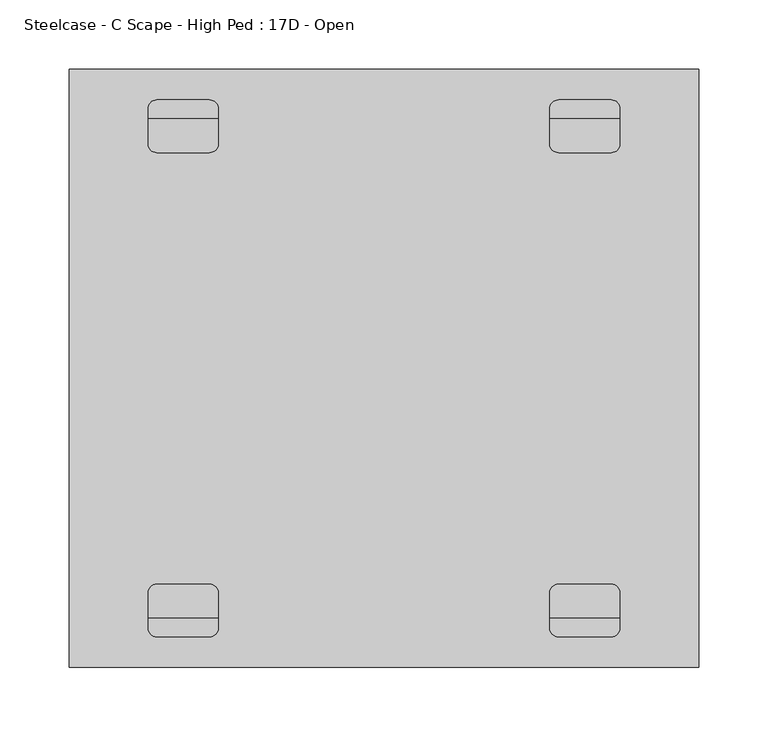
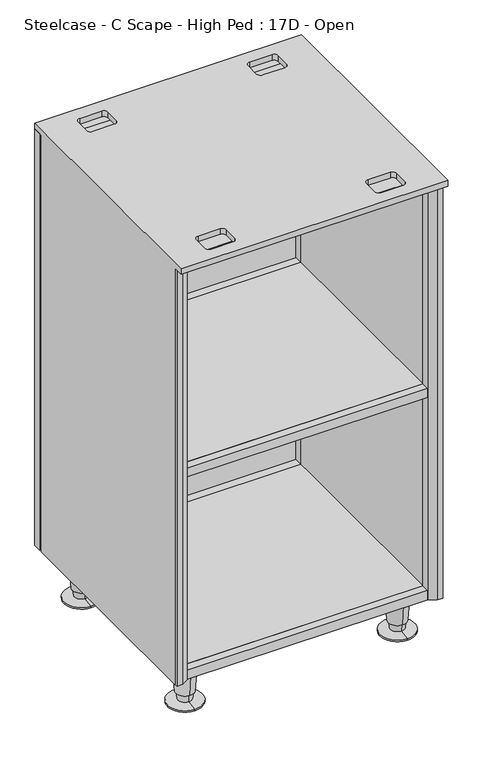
"""IFC4 building model written with IfcOpenShell, lengths in millimetres: furniture geometry, Steelcase - C Scape - High Ped : 17D - Open."""

from ifc_helpers import new_model, si_unit, frame, origin, place, context, project, spatial, polyline, circle_curve, outline, extrude, faceted_brep, source, transform, mapped, element, save
from ifc_brep_helpers import plane_surface, cylinder_surface, revolved_surface, advanced_brep


def steelcase_c_scape_high_ped_17d_open_59ce3d5d(model_context):
    return source(origin(), model_context, "Body", "SolidModel", [
        extrude(outline(polyline([(455.295, 0.0), (455.295, -13.8429225), (445.1174429, -13.8429225), (433.069569, -21.0820155), (21.5898062, -21.0820155), (9.5419322, -13.8429225), (-0.635, -13.8429225), (-0.635, 0.0), (455.295, 0.0)])), frame((0.0, 0.0, 76.2), z_axis=(0.0, 0.0, 1.0), x_axis=(1.0, 0.0, 0.0)), (0.0, 0.0, 1.0), 751.84),
        extrude(outline(polyline([(11.5822775, -415.036), (11.5822775, -397.2560233), (21.5898062, -397.2560233), (21.5898062, -412.2419845), (9.5419322, -419.4810775), (0.3980765, -419.4810775), (0.3980765, -415.036), (11.5822775, -415.036)])), frame((0.0, 0.0, 76.2), z_axis=(0.0, 0.0, 1.0), x_axis=(1.0, 0.0, 0.0)), (0.0, 0.0, 1.0), 751.84),
        extrude(outline(polyline([(443.0776, -415.036), (454.2616522, -415.036), (454.2616522, -419.4810775), (445.1174429, -419.4810775), (433.07, -412.2422435), (433.07, -397.2560233), (443.0776, -397.2560233), (443.0776, -415.036)])), frame((0.0, 0.0, 76.2), z_axis=(0.0, 0.0, 1.0), x_axis=(1.0, 0.0, 0.0)), (0.0, 0.0, 1.0), 751.84),
        advanced_brep(
        [(408.94, -393.3610306, 0.0), (408.94, -334.1355906, 0.0), (408.94, -363.7483106, 0.0), (408.94, -393.3610306, 2.6912335), (408.94, -334.1355906, 2.6912335), (408.94, -375.7058983, 5.8043097), (408.94, -351.7907229, 5.8043097), (408.94, -376.4000755, 19.05), (408.94, -351.0965457, 19.05), (408.94, -379.1261713, 19.05), (408.94, -348.3704499, 19.05), (408.94, -383.1224886, 76.2), (408.94, -344.3741326, 76.2), (408.94, -363.7483106, 76.2)],
        [
            (0, 1, circle_curve(frame((408.94, -363.7483106, 0.0), z_axis=(0.0, 0.0, -1.0), x_axis=(0.0, 1.0, 0.0)), 29.61272)),
            (1, 2),
            (2, 0),
            (1, 0, circle_curve(frame((408.94, -363.7483106, 0.0), z_axis=(0.0, 0.0, -1.0), x_axis=(0.0, 1.0, 0.0)), 29.61272)),
            (3, 4, circle_curve(frame((408.94, -363.7483106, 2.6912335), z_axis=(0.0, 0.0, -1.0), x_axis=(0.0, 1.0, 0.0)), 29.61272)),
            (4, 1),
            (0, 3),
            (4, 3, circle_curve(frame((408.94, -363.7483106, 2.6912335), z_axis=(0.0, 0.0, -1.0), x_axis=(0.0, 1.0, 0.0)), 29.61272)),
            (5, 6, circle_curve(frame((408.94, -363.7483106, 5.8043097), z_axis=(0.0, 0.0, -1.0), x_axis=(0.0, 1.0, 0.0)), 11.9575877)),
            (6, 4),
            (3, 5),
            (6, 5, circle_curve(frame((408.94, -363.7483106, 5.8043097), z_axis=(0.0, 0.0, -1.0), x_axis=(0.0, 1.0, 0.0)), 11.9575877)),
            (7, 8, circle_curve(frame((408.94, -363.7483106, 19.05), z_axis=(0.0, 0.0, -1.0), x_axis=(0.0, 1.0, 0.0)), 12.6517649)),
            (8, 6),
            (5, 7),
            (8, 7, circle_curve(frame((408.94, -363.7483106, 19.05), z_axis=(0.0, 0.0, -1.0), x_axis=(0.0, 1.0, 0.0)), 12.6517649)),
            (9, 10, circle_curve(frame((408.94, -363.7483106, 19.05), z_axis=(0.0, 0.0, -1.0), x_axis=(0.0, 1.0, 0.0)), 15.3778607)),
            (10, 8),
            (7, 9),
            (10, 9, circle_curve(frame((408.94, -363.7483106, 19.05), z_axis=(0.0, 0.0, -1.0), x_axis=(0.0, 1.0, 0.0)), 15.3778607)),
            (11, 12, circle_curve(frame((408.94, -363.7483106, 76.2), z_axis=(0.0, 0.0, -1.0), x_axis=(0.0, 1.0, 0.0)), 19.374178)),
            (12, 10),
            (9, 11),
            (12, 11, circle_curve(frame((408.94, -363.7483106, 76.2), z_axis=(0.0, 0.0, -1.0), x_axis=(0.0, 1.0, 0.0)), 19.374178)),
            (13, 12),
            (11, 13),
        ],
        [
            plane_surface(frame((408.94, -363.7483106, 0.0), z_axis=(0.0, 0.0, -1.0), x_axis=(0.0, 1.0, 0.0))),
            cylinder_surface(frame((408.94, -363.7483106, -7.7422201), z_axis=(0.0, 0.0, 1.0), x_axis=(0.0, 1.0, 0.0)), 29.61272),
            revolved_surface(polyline([(408.94, -334.1355906, 2.6912335), (408.94, -351.7907229, 5.8043097)]), (408.94, -363.7483106, -7.7422201), (0.0, 0.0, 1.0)),
            revolved_surface(polyline([(408.94, -351.7907229, 5.8043097), (408.94, -351.0965457, 19.05)]), (408.94, -363.7483106, -7.7422201), (0.0, 0.0, 1.0)),
            plane_surface(frame((408.94, -363.7483106, 19.05), z_axis=(0.0, 0.0, -1.0), x_axis=(0.0, 1.0, 0.0))),
            revolved_surface(polyline([(408.94, -348.3704499, 19.05), (408.94, -344.3741326, 76.2)]), (408.94, -363.7483106, -7.7422201), (0.0, 0.0, 1.0)),
            plane_surface(frame((408.94, -363.7483106, 76.2), z_axis=(0.0, 0.0, 1.0), x_axis=(0.0, 1.0, 0.0))),
        ],
        [
            (0, [[1, 2, 3]]),
            (0, [[4, -3, -2]]),
            (1, [[5, 6, -1, 7]]),
            (1, [[8, -7, -4, -6]]),
            (2, [[9, 10, -5, 11]]),
            (2, [[12, -11, -8, -10]]),
            (3, [[13, 14, -9, 15]]),
            (3, [[16, -15, -12, -14]]),
            (4, [[17, 18, -13, 19]]),
            (4, [[20, -19, -16, -18]]),
            (5, [[21, 22, -17, 23]]),
            (5, [[24, -23, -20, -22]]),
            (6, [[25, -21, 26]]),
            (6, [[-26, -24, -25]]),
        ],
    ),
        advanced_brep(
        [(408.94, -37.8824339, 76.2), (408.94, -76.6307898, 76.2), (408.94, -57.2566119, 76.2), (408.94, -41.8787512, 19.05), (408.94, -72.6344725, 19.05), (408.94, -44.6048469, 19.05), (408.94, -69.9083768, 19.05), (408.94, -45.2990242, 5.8043097), (408.94, -69.2141995, 5.8043097), (408.94, -27.6438918, 2.6912335), (408.94, -86.8693319, 2.6912335), (408.94, -27.6438918, 0.0), (408.94, -86.8693319, 0.0), (408.94, -57.2566119, 0.0)],
        [
            (0, 1, circle_curve(frame((408.94, -57.2566119, 76.2), z_axis=(0.0, 0.0, 1.0), x_axis=(0.0, -1.0, 0.0)), 19.374178)),
            (1, 2),
            (2, 0),
            (1, 0, circle_curve(frame((408.94, -57.2566119, 76.2), z_axis=(0.0, 0.0, 1.0), x_axis=(0.0, -1.0, 0.0)), 19.374178)),
            (3, 4, circle_curve(frame((408.94, -57.2566119, 19.05), z_axis=(0.0, 0.0, 1.0), x_axis=(0.0, -1.0, 0.0)), 15.3778607)),
            (4, 1),
            (0, 3),
            (4, 3, circle_curve(frame((408.94, -57.2566119, 19.05), z_axis=(0.0, 0.0, 1.0), x_axis=(0.0, -1.0, 0.0)), 15.3778607)),
            (5, 6, circle_curve(frame((408.94, -57.2566119, 19.05), z_axis=(0.0, 0.0, 1.0), x_axis=(0.0, -1.0, 0.0)), 12.6517649)),
            (6, 4),
            (3, 5),
            (6, 5, circle_curve(frame((408.94, -57.2566119, 19.05), z_axis=(0.0, 0.0, 1.0), x_axis=(0.0, -1.0, 0.0)), 12.6517649)),
            (7, 8, circle_curve(frame((408.94, -57.2566119, 5.8043097), z_axis=(0.0, 0.0, 1.0), x_axis=(0.0, -1.0, 0.0)), 11.9575877)),
            (8, 6),
            (5, 7),
            (8, 7, circle_curve(frame((408.94, -57.2566119, 5.8043097), z_axis=(0.0, 0.0, 1.0), x_axis=(0.0, -1.0, 0.0)), 11.9575877)),
            (9, 10, circle_curve(frame((408.94, -57.2566119, 2.6912335), z_axis=(0.0, 0.0, 1.0), x_axis=(0.0, -1.0, 0.0)), 29.61272)),
            (10, 8),
            (7, 9),
            (10, 9, circle_curve(frame((408.94, -57.2566119, 2.6912335), z_axis=(0.0, 0.0, 1.0), x_axis=(0.0, -1.0, 0.0)), 29.61272)),
            (11, 12, circle_curve(frame((408.94, -57.2566119, 0.0), z_axis=(0.0, 0.0, 1.0), x_axis=(0.0, -1.0, 0.0)), 29.61272)),
            (12, 10),
            (9, 11),
            (12, 11, circle_curve(frame((408.94, -57.2566119, 0.0), z_axis=(0.0, 0.0, 1.0), x_axis=(0.0, -1.0, 0.0)), 29.61272)),
            (13, 12),
            (11, 13),
        ],
        [
            plane_surface(frame((408.94, -57.2566119, 76.2), z_axis=(0.0, 0.0, 1.0), x_axis=(0.0, -1.0, 0.0))),
            revolved_surface(polyline([(408.94, -76.6307898, 76.2), (408.94, -72.6344725, 19.05)]), (408.94, -57.2566119, -7.7422201), (0.0, 0.0, -1.0)),
            plane_surface(frame((408.94, -57.2566119, 19.05), z_axis=(0.0, 0.0, -1.0), x_axis=(0.0, -1.0, 0.0))),
            revolved_surface(polyline([(408.94, -69.9083768, 19.05), (408.94, -69.2141995, 5.8043097)]), (408.94, -57.2566119, -7.7422201), (0.0, 0.0, -1.0)),
            revolved_surface(polyline([(408.94, -69.2141995, 5.8043097), (408.94, -86.8693319, 2.6912335)]), (408.94, -57.2566119, -7.7422201), (0.0, 0.0, -1.0)),
            cylinder_surface(frame((408.94, -57.2566119, -7.7422201), z_axis=(0.0, 0.0, -1.0), x_axis=(0.0, -1.0, 0.0)), 29.61272),
            plane_surface(frame((408.94, -57.2566119, 0.0), z_axis=(0.0, 0.0, -1.0), x_axis=(0.0, -1.0, 0.0))),
        ],
        [
            (0, [[1, 2, 3]]),
            (0, [[4, -3, -2]]),
            (1, [[5, 6, -1, 7]]),
            (1, [[8, -7, -4, -6]]),
            (2, [[9, 10, -5, 11]]),
            (2, [[12, -11, -8, -10]]),
            (3, [[13, 14, -9, 15]]),
            (3, [[16, -15, -12, -14]]),
            (4, [[17, 18, -13, 19]]),
            (4, [[20, -19, -16, -18]]),
            (5, [[21, 22, -17, 23]]),
            (5, [[24, -23, -20, -22]]),
            (6, [[25, -21, 26]]),
            (6, [[-26, -24, -25]]),
        ],
    ),
        advanced_brep(
        [(45.7198062, -383.1224886, 76.2), (45.7198062, -344.3741326, 76.2), (45.7198062, -363.7483106, 76.2), (45.7198062, -379.1261713, 19.05), (45.7198062, -348.3704499, 19.05), (45.7198062, -376.4000755, 19.05), (45.7198062, -351.0965457, 19.05), (45.7198062, -375.7058983, 5.8043097), (45.7198062, -351.7907229, 5.8043097), (45.7198062, -393.3610306, 2.6912335), (45.7198062, -334.1355906, 2.6912335), (45.7198062, -393.3610306, 0.0), (45.7198062, -334.1355906, 0.0), (45.7198062, -363.7483106, 0.0)],
        [
            (0, 1, circle_curve(frame((45.7198062, -363.7483106, 76.2), z_axis=(0.0, 0.0, 1.0), x_axis=(0.0, 1.0, 0.0)), 19.374178)),
            (1, 2),
            (2, 0),
            (1, 0, circle_curve(frame((45.7198062, -363.7483106, 76.2), z_axis=(0.0, 0.0, 1.0), x_axis=(0.0, 1.0, 0.0)), 19.374178)),
            (3, 4, circle_curve(frame((45.7198062, -363.7483106, 19.05), z_axis=(0.0, 0.0, 1.0), x_axis=(0.0, 1.0, 0.0)), 15.3778607)),
            (4, 1),
            (0, 3),
            (4, 3, circle_curve(frame((45.7198062, -363.7483106, 19.05), z_axis=(0.0, 0.0, 1.0), x_axis=(0.0, 1.0, 0.0)), 15.3778607)),
            (5, 6, circle_curve(frame((45.7198062, -363.7483106, 19.05), z_axis=(0.0, 0.0, 1.0), x_axis=(0.0, 1.0, 0.0)), 12.6517649)),
            (6, 4),
            (3, 5),
            (6, 5, circle_curve(frame((45.7198062, -363.7483106, 19.05), z_axis=(0.0, 0.0, 1.0), x_axis=(0.0, 1.0, 0.0)), 12.6517649)),
            (7, 8, circle_curve(frame((45.7198062, -363.7483106, 5.8043097), z_axis=(0.0, 0.0, 1.0), x_axis=(0.0, 1.0, 0.0)), 11.9575877)),
            (8, 6),
            (5, 7),
            (8, 7, circle_curve(frame((45.7198062, -363.7483106, 5.8043097), z_axis=(0.0, 0.0, 1.0), x_axis=(0.0, 1.0, 0.0)), 11.9575877)),
            (9, 10, circle_curve(frame((45.7198062, -363.7483106, 2.6912335), z_axis=(0.0, 0.0, 1.0), x_axis=(0.0, 1.0, 0.0)), 29.61272)),
            (10, 8),
            (7, 9),
            (10, 9, circle_curve(frame((45.7198062, -363.7483106, 2.6912335), z_axis=(0.0, 0.0, 1.0), x_axis=(0.0, 1.0, 0.0)), 29.61272)),
            (11, 12, circle_curve(frame((45.7198062, -363.7483106, 0.0), z_axis=(0.0, 0.0, 1.0), x_axis=(0.0, 1.0, 0.0)), 29.61272)),
            (12, 10),
            (9, 11),
            (12, 11, circle_curve(frame((45.7198062, -363.7483106, 0.0), z_axis=(0.0, 0.0, 1.0), x_axis=(0.0, 1.0, 0.0)), 29.61272)),
            (13, 12),
            (11, 13),
        ],
        [
            plane_surface(frame((45.7198062, -363.7483106, 76.2), z_axis=(0.0, 0.0, 1.0), x_axis=(0.0, 1.0, 0.0))),
            revolved_surface(polyline([(45.7198062, -344.3741326, 76.2), (45.7198062, -348.3704499, 19.05)]), (45.7198062, -363.7483106, -7.7422201), (0.0, 0.0, -1.0)),
            plane_surface(frame((45.7198062, -363.7483106, 19.05), z_axis=(0.0, 0.0, -1.0), x_axis=(0.0, 1.0, 0.0))),
            revolved_surface(polyline([(45.7198062, -351.0965457, 19.05), (45.7198062, -351.7907229, 5.8043097)]), (45.7198062, -363.7483106, -7.7422201), (0.0, 0.0, -1.0)),
            revolved_surface(polyline([(45.7198062, -351.7907229, 5.8043097), (45.7198062, -334.1355906, 2.6912335)]), (45.7198062, -363.7483106, -7.7422201), (0.0, 0.0, -1.0)),
            cylinder_surface(frame((45.7198062, -363.7483106, -7.7422201), z_axis=(0.0, 0.0, -1.0), x_axis=(0.0, 1.0, 0.0)), 29.61272),
            plane_surface(frame((45.7198062, -363.7483106, 0.0), z_axis=(0.0, 0.0, -1.0), x_axis=(0.0, 1.0, 0.0))),
        ],
        [
            (0, [[1, 2, 3]]),
            (0, [[4, -3, -2]]),
            (1, [[5, 6, -1, 7]]),
            (1, [[8, -7, -4, -6]]),
            (2, [[9, 10, -5, 11]]),
            (2, [[12, -11, -8, -10]]),
            (3, [[13, 14, -9, 15]]),
            (3, [[16, -15, -12, -14]]),
            (4, [[17, 18, -13, 19]]),
            (4, [[20, -19, -16, -18]]),
            (5, [[21, 22, -17, 23]]),
            (5, [[24, -23, -20, -22]]),
            (6, [[25, -21, 26]]),
            (6, [[-26, -24, -25]]),
        ],
    ),
        advanced_brep(
        [(45.7198062, -27.6438918, 0.0), (45.7198062, -86.8693319, 0.0), (45.7198062, -57.2566119, 0.0), (45.7198062, -27.6438918, 2.6912335), (45.7198062, -86.8693319, 2.6912335), (45.7198062, -45.2990242, 5.8043097), (45.7198062, -69.2141995, 5.8043097), (45.7198062, -44.6048469, 19.05), (45.7198062, -69.9083768, 19.05), (45.7198062, -41.8787512, 19.05), (45.7198062, -72.6344725, 19.05), (45.7198062, -37.8824339, 76.2), (45.7198062, -76.6307898, 76.2), (45.7198062, -57.2566119, 76.2)],
        [
            (0, 1, circle_curve(frame((45.7198062, -57.2566119, 0.0), z_axis=(0.0, 0.0, -1.0), x_axis=(0.0, -1.0, 0.0)), 29.61272)),
            (1, 2),
            (2, 0),
            (1, 0, circle_curve(frame((45.7198062, -57.2566119, 0.0), z_axis=(0.0, 0.0, -1.0), x_axis=(0.0, -1.0, 0.0)), 29.61272)),
            (3, 4, circle_curve(frame((45.7198062, -57.2566119, 2.6912335), z_axis=(0.0, 0.0, -1.0), x_axis=(0.0, -1.0, 0.0)), 29.61272)),
            (4, 1),
            (0, 3),
            (4, 3, circle_curve(frame((45.7198062, -57.2566119, 2.6912335), z_axis=(0.0, 0.0, -1.0), x_axis=(0.0, -1.0, 0.0)), 29.61272)),
            (5, 6, circle_curve(frame((45.7198062, -57.2566119, 5.8043097), z_axis=(0.0, 0.0, -1.0), x_axis=(0.0, -1.0, 0.0)), 11.9575877)),
            (6, 4),
            (3, 5),
            (6, 5, circle_curve(frame((45.7198062, -57.2566119, 5.8043097), z_axis=(0.0, 0.0, -1.0), x_axis=(0.0, -1.0, 0.0)), 11.9575877)),
            (7, 8, circle_curve(frame((45.7198062, -57.2566119, 19.05), z_axis=(0.0, 0.0, -1.0), x_axis=(0.0, -1.0, 0.0)), 12.6517649)),
            (8, 6),
            (5, 7),
            (8, 7, circle_curve(frame((45.7198062, -57.2566119, 19.05), z_axis=(0.0, 0.0, -1.0), x_axis=(0.0, -1.0, 0.0)), 12.6517649)),
            (9, 10, circle_curve(frame((45.7198062, -57.2566119, 19.05), z_axis=(0.0, 0.0, -1.0), x_axis=(0.0, -1.0, 0.0)), 15.3778607)),
            (10, 8),
            (7, 9),
            (10, 9, circle_curve(frame((45.7198062, -57.2566119, 19.05), z_axis=(0.0, 0.0, -1.0), x_axis=(0.0, -1.0, 0.0)), 15.3778607)),
            (11, 12, circle_curve(frame((45.7198062, -57.2566119, 76.2), z_axis=(0.0, 0.0, -1.0), x_axis=(0.0, -1.0, 0.0)), 19.374178)),
            (12, 10),
            (9, 11),
            (12, 11, circle_curve(frame((45.7198062, -57.2566119, 76.2), z_axis=(0.0, 0.0, -1.0), x_axis=(0.0, -1.0, 0.0)), 19.374178)),
            (13, 12),
            (11, 13),
        ],
        [
            plane_surface(frame((45.7198062, -57.2566119, 0.0), z_axis=(0.0, 0.0, -1.0), x_axis=(0.0, -1.0, 0.0))),
            cylinder_surface(frame((45.7198062, -57.2566119, -7.7422201), z_axis=(0.0, 0.0, 1.0), x_axis=(0.0, -1.0, 0.0)), 29.61272),
            revolved_surface(polyline([(45.7198062, -86.8693319, 2.6912335), (45.7198062, -69.2141995, 5.8043097)]), (45.7198062, -57.2566119, -7.7422201), (0.0, 0.0, 1.0)),
            revolved_surface(polyline([(45.7198062, -69.2141995, 5.8043097), (45.7198062, -69.9083768, 19.05)]), (45.7198062, -57.2566119, -7.7422201), (0.0, 0.0, 1.0)),
            plane_surface(frame((45.7198062, -57.2566119, 19.05), z_axis=(0.0, 0.0, -1.0), x_axis=(0.0, -1.0, 0.0))),
            revolved_surface(polyline([(45.7198062, -72.6344725, 19.05), (45.7198062, -76.6307898, 76.2)]), (45.7198062, -57.2566119, -7.7422201), (0.0, 0.0, 1.0)),
            plane_surface(frame((45.7198062, -57.2566119, 76.2), z_axis=(0.0, 0.0, 1.0), x_axis=(0.0, -1.0, 0.0))),
        ],
        [
            (0, [[1, 2, 3]]),
            (0, [[4, -3, -2]]),
            (1, [[5, 6, -1, 7]]),
            (1, [[8, -7, -4, -6]]),
            (2, [[9, 10, -5, 11]]),
            (2, [[12, -11, -8, -10]]),
            (3, [[13, 14, -9, 15]]),
            (3, [[16, -15, -12, -14]]),
            (4, [[17, 18, -13, 19]]),
            (4, [[20, -19, -16, -18]]),
            (5, [[21, 22, -17, 23]]),
            (5, [[24, -23, -20, -22]]),
            (6, [[25, -21, 26]]),
            (6, [[-26, -24, -25]]),
        ],
    ),
        advanced_brep(
        [(-0.635, -433.07, 838.2), (-0.635, 0.0, 838.2), (-0.635, 0.0, 828.04), (-0.635, -18.288, 828.04), (-0.635, -18.288, 76.2), (-0.635, -415.036, 76.2), (-0.635, -415.036, 828.04), (-0.635, -433.07, 828.04), (455.295, -433.07, 838.2), (455.295, -433.07, 828.04), (455.295, -415.036, 828.04), (455.295, -415.036, 76.2), (455.295, -18.288, 76.2), (455.295, -18.288, 828.04), (455.295, 0.0, 828.04), (455.295, 0.0, 838.2), (21.5898062, -397.2560233, 92.7100024), (433.0701938, -397.2560233, 92.7100024), (433.0701938, -36.0679767, 92.7100024), (21.5898062, -36.0679767, 92.7100024), (443.0777225, -36.0679767, 828.04), (443.0777225, -36.0679767, 76.2), (11.5822775, -36.0679767, 76.2), (11.5822775, -36.0679767, 828.04), (56.5151938, -36.0679767, 828.04), (107.3148062, -36.0679767, 828.04), (347.3449225, -36.0679767, 828.04), (398.1445349, -36.0679767, 828.04), (433.0701938, -36.0679767, 441.604404), (21.5898062, -36.0679767, 441.604404), (21.5898062, -36.0679767, 457.2), (433.0701938, -36.0679767, 457.2), (433.0701938, -36.0679767, 811.5299709), (21.5898062, -36.0679767, 811.5299709), (11.5822775, -18.288, 76.2), (443.0777225, -18.288, 76.2), (443.0777225, -415.036, 76.2), (443.0777225, -397.2560233, 76.2), (11.5822775, -397.2560233, 76.2), (11.5822775, -415.036, 76.2), (347.3449225, -397.2560233, 828.04), (107.3148062, -397.2560233, 828.04), (56.5151938, -397.2560233, 828.04), (11.5822775, -397.2560233, 828.04), (443.0777225, -397.2560233, 828.04), (398.1445349, -397.2560233, 828.04), (21.5898062, -397.2560233, 441.604404), (433.0701938, -397.2560233, 441.604404), (433.0701938, -397.2560233, 457.2), (21.5898062, -397.2560233, 457.2), (21.5898062, -397.2560233, 811.5299709), (433.0701938, -397.2560233, 811.5299709), (100.9648062, -410.9720465, 838.2), (62.8651938, -410.9720465, 838.2), (56.5151938, -404.6212714, 838.2), (56.5151938, -379.2220465, 838.2), (62.8651938, -372.8720465, 838.2), (100.9648062, -372.8720465, 838.2), (107.3148062, -379.2220465, 838.2), (107.3148062, -404.6212714, 838.2), (353.694535, -410.9712714, 838.2), (347.3449225, -404.6212714, 838.2), (347.3449225, -379.2220465, 838.2), (353.6949225, -372.8720465, 838.2), (391.7945349, -372.8720465, 838.2), (398.1445349, -379.2220465, 838.2), (398.1445349, -404.6212714, 838.2), (391.7945349, -410.9712714, 838.2), (107.3148062, -54.1015117, 838.2), (100.9648062, -60.4515117, 838.2), (62.8651938, -60.4522868, 838.2), (56.5151938, -54.1015117, 838.2), (56.5151938, -28.7022868, 838.2), (62.8651938, -22.3522868, 838.2), (100.9648062, -22.3522868, 838.2), (107.3148062, -28.7022868, 838.2), (391.7945349, -60.4522868, 838.2), (353.694535, -60.4522868, 838.2), (347.3449225, -54.1015117, 838.2), (347.3449225, -28.7022868, 838.2), (353.6949225, -22.3522868, 838.2), (391.7945349, -22.3522868, 838.2), (398.1445349, -28.7022868, 838.2), (398.1445349, -54.1015117, 838.2), (443.0777225, -18.288, 828.04), (398.1445349, -28.7022868, 828.04), (391.7945349, -22.3522868, 828.04), (353.6949225, -22.3522868, 828.04), (347.3449225, -28.7022868, 828.04), (107.3148062, -28.7022868, 828.04), (100.9648062, -22.3522868, 828.04), (62.8651938, -22.3522868, 828.04), (56.5151938, -28.7022868, 828.04), (11.5822775, -18.288, 828.04), (11.5822775, -415.036, 828.04), (56.5151938, -404.6212714, 828.04), (62.8651938, -410.9712714, 828.04), (100.9648062, -410.9720465, 828.04), (107.3148062, -404.6212714, 828.04), (347.3449225, -404.6212714, 828.04), (353.694535, -410.9712714, 828.04), (391.7945349, -410.9720465, 828.04), (398.1445349, -404.6212714, 828.04), (443.0777225, -415.036, 828.04), (107.3148062, -379.2220465, 828.04), (100.9648062, -372.8720465, 828.04), (62.8651938, -372.8720465, 828.04), (56.5151938, -379.2220465, 828.04), (398.1445349, -379.2220465, 828.04), (391.7945349, -372.8720465, 828.04), (353.6949225, -372.8720465, 828.04), (347.3449225, -379.2220465, 828.04), (100.9648062, -60.4515117, 828.04), (107.3148062, -54.1015117, 828.04), (56.5151938, -54.1015117, 828.04), (62.8651938, -60.4515117, 828.04), (353.6945349, -60.4522868, 828.04), (391.7945349, -60.4522868, 828.04), (398.1445349, -54.1015117, 828.04), (347.3449225, -54.1015117, 828.04)],
        [
            (0, 1),
            (1, 2),
            (2, 3),
            (3, 4),
            (4, 5),
            (5, 6),
            (6, 7),
            (7, 0),
            (8, 9),
            (9, 10),
            (10, 11),
            (11, 12),
            (12, 13),
            (13, 14),
            (14, 15),
            (15, 8),
            (16, 17),
            (17, 18),
            (18, 19),
            (19, 16),
            (20, 21),
            (21, 22),
            (22, 23),
            (23, 24),
            (24, 25),
            (25, 26),
            (26, 27),
            (27, 20),
            (18, 28),
            (28, 29),
            (29, 19),
            (30, 31),
            (31, 32),
            (32, 33),
            (33, 30),
            (34, 22),
            (21, 35),
            (35, 12),
            (11, 36),
            (36, 37),
            (37, 38),
            (38, 39),
            (39, 5),
            (4, 34),
            (40, 41),
            (41, 42),
            (42, 43),
            (43, 38),
            (37, 44),
            (44, 45),
            (45, 40),
            (16, 46),
            (46, 47),
            (47, 17),
            (48, 49),
            (49, 50),
            (50, 51),
            (51, 48),
            (48, 31),
            (30, 49),
            (28, 47),
            (46, 29),
            (0, 8),
            (15, 1),
            (52, 53),
            (53, 54, circle_curve(frame((62.8651938, -404.6212714, 838.2), z_axis=(0.0, 0.0, -1.0), x_axis=(0.0, -1.0, 0.0)), 6.35)),
            (54, 55),
            (55, 56, circle_curve(frame((62.8651938, -379.2220465, 838.2), z_axis=(0.0, 0.0, -1.0), x_axis=(0.0, -1.0, 0.0)), 6.35)),
            (56, 57),
            (57, 58, circle_curve(frame((100.9648062, -379.2220465, 838.2), z_axis=(0.0, 0.0, -1.0), x_axis=(0.0, -1.0, 0.0)), 6.35)),
            (58, 59),
            (59, 52, circle_curve(frame((100.9648062, -404.6212714, 838.2), z_axis=(0.0, 0.0, -1.0), x_axis=(0.0, -1.0, 0.0)), 6.35)),
            (60, 61, circle_curve(frame((353.6949225, -404.6212714, 838.2), z_axis=(0.0, 0.0, -1.0), x_axis=(0.0, -1.0, 0.0)), 6.35)),
            (61, 62),
            (62, 63, circle_curve(frame((353.6949225, -379.2220465, 838.2), z_axis=(0.0, 0.0, -1.0), x_axis=(0.0, -1.0, 0.0)), 6.35)),
            (63, 64),
            (64, 65, circle_curve(frame((391.7945349, -379.2220465, 838.2), z_axis=(0.0, 0.0, -1.0), x_axis=(0.0, -1.0, 0.0)), 6.35)),
            (65, 66),
            (66, 67, circle_curve(frame((391.7945349, -404.6212714, 838.2), z_axis=(0.0, 0.0, -1.0), x_axis=(0.0, -1.0, 0.0)), 6.35)),
            (67, 60),
            (68, 69, circle_curve(frame((100.9648062, -54.1015117, 838.2), z_axis=(0.0, 0.0, -1.0), x_axis=(0.0, 1.0, 0.0)), 6.35)),
            (69, 70),
            (70, 71, circle_curve(frame((62.8651938, -54.1015117, 838.2), z_axis=(0.0, 0.0, -1.0), x_axis=(0.0, 1.0, 0.0)), 6.35)),
            (71, 72),
            (72, 73, circle_curve(frame((62.8651938, -28.7022868, 838.2), z_axis=(0.0, 0.0, -1.0), x_axis=(0.0, 1.0, 0.0)), 6.35)),
            (73, 74),
            (74, 75, circle_curve(frame((100.9648062, -28.7022868, 838.2), z_axis=(0.0, 0.0, -1.0), x_axis=(0.0, 1.0, 0.0)), 6.35)),
            (75, 68),
            (76, 77),
            (77, 78, circle_curve(frame((353.6949225, -54.1015117, 838.2), z_axis=(0.0, 0.0, -1.0), x_axis=(0.0, 1.0, 0.0)), 6.35)),
            (78, 79),
            (79, 80, circle_curve(frame((353.6949225, -28.7022868, 838.2), z_axis=(0.0, 0.0, -1.0), x_axis=(0.0, 1.0, 0.0)), 6.35)),
            (80, 81),
            (81, 82, circle_curve(frame((391.7945349, -28.7022868, 838.2), z_axis=(0.0, 0.0, -1.0), x_axis=(0.0, 1.0, 0.0)), 6.35)),
            (82, 83),
            (83, 76, circle_curve(frame((391.7945349, -54.1015117, 838.2), z_axis=(0.0, 0.0, -1.0), x_axis=(0.0, 1.0, 0.0)), 6.35)),
            (14, 2),
            (13, 84),
            (84, 20),
            (27, 85),
            (85, 86, circle_curve(frame((391.7945349, -28.7022868, 828.04), z_axis=(0.0, 0.0, 1.0), x_axis=(0.0, 1.0, 0.0)), 6.35)),
            (86, 87),
            (87, 88, circle_curve(frame((353.6949225, -28.7022868, 828.04), z_axis=(0.0, 0.0, 1.0), x_axis=(0.0, 1.0, 0.0)), 6.35)),
            (88, 26),
            (25, 89),
            (89, 90, circle_curve(frame((100.9648062, -28.7022868, 828.04), z_axis=(0.0, 0.0, 1.0), x_axis=(0.0, 1.0, 0.0)), 6.35)),
            (90, 91),
            (91, 92, circle_curve(frame((62.8651938, -28.7022868, 828.04), z_axis=(0.0, 0.0, 1.0), x_axis=(0.0, 1.0, 0.0)), 6.35)),
            (92, 24),
            (23, 93),
            (93, 3),
            (32, 51),
            (50, 33),
            (9, 7),
            (6, 94),
            (94, 43),
            (42, 95),
            (95, 96, circle_curve(frame((62.8651938, -404.6212714, 828.04), z_axis=(0.0, 0.0, 1.0), x_axis=(0.0, -1.0, 0.0)), 6.35)),
            (96, 97),
            (97, 98, circle_curve(frame((100.9648062, -404.6212714, 828.04), z_axis=(0.0, 0.0, 1.0), x_axis=(0.0, -1.0, 0.0)), 6.35)),
            (98, 41),
            (40, 99),
            (99, 100, circle_curve(frame((353.6949225, -404.6212714, 828.04), z_axis=(0.0, 0.0, 1.0), x_axis=(0.0, -1.0, 0.0)), 6.35)),
            (100, 101),
            (101, 102, circle_curve(frame((391.7945349, -404.6212714, 828.04), z_axis=(0.0, 0.0, 1.0), x_axis=(0.0, -1.0, 0.0)), 6.35)),
            (102, 45),
            (44, 103),
            (103, 10),
            (104, 105, circle_curve(frame((100.9648062, -379.2220465, 828.04), z_axis=(0.0, 0.0, 1.0), x_axis=(0.0, -1.0, 0.0)), 6.35)),
            (105, 106),
            (106, 107, circle_curve(frame((62.8651938, -379.2220465, 828.04), z_axis=(0.0, 0.0, 1.0), x_axis=(0.0, -1.0, 0.0)), 6.35)),
            (107, 42),
            (41, 104),
            (108, 109, circle_curve(frame((391.7945349, -379.2220465, 828.04), z_axis=(0.0, 0.0, 1.0), x_axis=(0.0, -1.0, 0.0)), 6.35)),
            (109, 110),
            (110, 111, circle_curve(frame((353.6949225, -379.2220465, 828.04), z_axis=(0.0, 0.0, 1.0), x_axis=(0.0, -1.0, 0.0)), 6.35)),
            (111, 40),
            (45, 108),
            (96, 53),
            (52, 97),
            (95, 54),
            (107, 55),
            (106, 56),
            (105, 57),
            (104, 58),
            (98, 59),
            (99, 61),
            (60, 100),
            (111, 62),
            (110, 63),
            (109, 64),
            (108, 65),
            (102, 66),
            (101, 67),
            (93, 34),
            (39, 94),
            (84, 35),
            (36, 103),
            (112, 113, circle_curve(frame((100.9648062, -54.1015117, 828.04), z_axis=(0.0, 0.0, 1.0), x_axis=(0.0, 1.0, 0.0)), 6.35)),
            (113, 25),
            (24, 114),
            (114, 115, circle_curve(frame((62.8651938, -54.1015117, 828.04), z_axis=(0.0, 0.0, 1.0), x_axis=(0.0, 1.0, 0.0)), 6.35)),
            (115, 112),
            (116, 117),
            (117, 118, circle_curve(frame((391.7945349, -54.1015117, 828.04), z_axis=(0.0, 0.0, 1.0), x_axis=(0.0, 1.0, 0.0)), 6.35)),
            (118, 27),
            (26, 119),
            (119, 116, circle_curve(frame((353.6949225, -54.1015117, 828.04), z_axis=(0.0, 0.0, 1.0), x_axis=(0.0, 1.0, 0.0)), 6.35)),
            (115, 70),
            (69, 112),
            (114, 71),
            (92, 72),
            (91, 73),
            (90, 74),
            (89, 75),
            (113, 68),
            (119, 78),
            (77, 116),
            (88, 79),
            (87, 80),
            (86, 81),
            (85, 82),
            (118, 83),
            (117, 76),
        ],
        [
            plane_surface(frame((-0.635, -36.0679767, 92.7100024), z_axis=(-1.0, 0.0, 0.0), x_axis=(0.0, 1.0, 0.0))),
            plane_surface(frame((455.295, -36.0679767, 92.7100024), z_axis=(1.0, 0.0, 0.0), x_axis=(0.0, -1.0, 0.0))),
            plane_surface(frame((-0.635, -397.2560233, 92.7100024), z_axis=(0.0, 0.0, 1.0), x_axis=(1.0, 0.0, 0.0))),
            plane_surface(frame((-0.635, -36.0679767, 92.7100024), z_axis=(0.0, 1.0, 0.0), x_axis=(1.0, 0.0, 0.0))),
            plane_surface(frame((-0.635, -36.0679767, 76.2), z_axis=(0.0, 0.0, -1.0), x_axis=(1.0, 0.0, 0.0))),
            plane_surface(frame((-0.635, -397.2560233, 76.2), z_axis=(0.0, -1.0, 0.0), x_axis=(1.0, 0.0, 0.0))),
            plane_surface(frame((-0.635, -397.2560233, 457.2), z_axis=(0.0, 0.0, 1.0), x_axis=(1.0, 0.0, 0.0))),
            plane_surface(frame((-0.635, -36.0679767, 441.604404), z_axis=(0.0, 0.0, -1.0), x_axis=(1.0, 0.0, 0.0))),
            plane_surface(frame((-0.635, -433.07, 838.2), z_axis=(0.0, 0.0, 1.0), x_axis=(1.0, 0.0, 0.0))),
            plane_surface(frame((-0.635, 0.0, 838.2), z_axis=(0.0, 1.0, 0.0), x_axis=(1.0, 0.0, 0.0))),
            plane_surface(frame((-0.635, 0.0, 828.04), z_axis=(0.0, 0.0, -1.0), x_axis=(1.0, 0.0, 0.0))),
            plane_surface(frame((-0.635, -36.0679767, 811.5299709), z_axis=(0.0, 0.0, -1.0), x_axis=(1.0, 0.0, 0.0))),
            plane_surface(frame((-0.635, -397.2560233, 828.04), z_axis=(0.0, 0.0, -1.0), x_axis=(1.0, 0.0, 0.0))),
            plane_surface(frame((-0.635, -433.07, 828.04), z_axis=(0.0, -1.0, 0.0), x_axis=(1.0, 0.0, 0.0))),
            plane_surface(frame((62.8651938, -410.9720465, 828.04), z_axis=(0.0, 0.0, 1.0), x_axis=(-1.0, 0.0, 0.0))),
            plane_surface(frame((100.9651938, -410.9720465, 828.04), z_axis=(0.0, 1.0, 0.0), x_axis=(0.0, 0.0, 1.0))),
            revolved_surface(polyline([(62.8651938, -410.97127140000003, 828.04), (62.8651938, -410.97127140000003, 838.2)]), (62.8651938, -404.6212714, 838.2), (0.0, 0.0, -1.0)),
            plane_surface(frame((56.5151938, -404.6212714, 828.04), z_axis=(1.0, 0.0, 0.0), x_axis=(0.0, 0.0, 1.0))),
            revolved_surface(polyline([(62.8651938, -385.5720465, 828.04), (62.8651938, -385.5720465, 838.2)]), (62.8651938, -379.2220465, 838.2), (0.0, 0.0, -1.0)),
            plane_surface(frame((62.8651938, -372.8720465, 828.04), z_axis=(0.0, -1.0, 0.0), x_axis=(0.0, 0.0, 1.0))),
            revolved_surface(polyline([(100.9648062, -385.5720465, 828.04), (100.9648062, -385.5720465, 838.2)]), (100.9648062, -379.2220465, 838.2), (0.0, 0.0, -1.0)),
            plane_surface(frame((107.3148062, -379.2220465, 828.04), z_axis=(-1.0, 0.0, 0.0), x_axis=(0.0, 0.0, 1.0))),
            revolved_surface(polyline([(100.9648062, -410.97127140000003, 828.04), (100.9648062, -410.97127140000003, 838.2)]), (100.9648062, -404.6212714, 838.2), (0.0, 0.0, -1.0)),
            revolved_surface(polyline([(353.6949225, -410.97127140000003, 828.04), (353.6949225, -410.97127140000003, 838.2)]), (353.6949225, -404.6212714, 0.0), (0.0, 0.0, -1.0)),
            plane_surface(frame((347.3449225, -404.6212714, 828.04), z_axis=(1.0, 0.0, 0.0), x_axis=(0.0, 0.0, 1.0))),
            revolved_surface(polyline([(353.6949225, -385.5720465, 828.04), (353.6949225, -385.5720465, 838.2)]), (353.6949225, -379.2220465, 0.0), (0.0, 0.0, -1.0)),
            plane_surface(frame((353.6949225, -372.8720465, 828.04), z_axis=(0.0, -1.0, 0.0), x_axis=(0.0, 0.0, 1.0))),
            revolved_surface(polyline([(391.7945349, -385.5720465, 828.04), (391.7945349, -385.5720465, 838.2)]), (391.7945349, -379.2220465, 0.0), (0.0, 0.0, -1.0)),
            plane_surface(frame((398.1445349, -379.2220465, 828.04), z_axis=(-1.0, 0.0, 0.0), x_axis=(0.0, 0.0, 1.0))),
            revolved_surface(polyline([(391.7945349, -410.97127140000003, 828.04), (391.7945349, -410.97127140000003, 838.2)]), (391.7945349, -404.6212714, 0.0), (0.0, 0.0, -1.0)),
            plane_surface(frame((391.7945349, -410.9720465, 828.04), z_axis=(0.0, 1.0, 0.0), x_axis=(0.0, 0.0, 1.0))),
            plane_surface(frame((11.5822775, -18.288, 828.04), z_axis=(0.0, 1.0, 0.0), x_axis=(0.0, 0.0, -1.0))),
            plane_surface(frame((-0.635, -415.036, 828.04), z_axis=(0.0, -1.0, 0.0), x_axis=(0.0, 0.0, -1.0))),
            plane_surface(frame((11.5822775, -415.036, 828.04), z_axis=(1.0, 0.0, 0.0), x_axis=(0.0, 0.0, -1.0))),
            plane_surface(frame((21.5898062, -397.2560233, 828.04), z_axis=(1.0, 0.0, 0.0), x_axis=(0.0, 0.0, -1.0))),
            plane_surface(frame((11.5822775, -36.0679767, 828.04), z_axis=(1.0, 0.0, 0.0), x_axis=(0.0, 0.0, -1.0))),
            plane_surface(frame((443.0777225, -18.288, 828.04), z_axis=(-1.0, 0.0, 0.0), x_axis=(0.0, 0.0, -1.0))),
            plane_surface(frame((433.0701938, -36.0679767, 828.04), z_axis=(-1.0, 0.0, 0.0), x_axis=(0.0, 0.0, -1.0))),
            plane_surface(frame((443.0777225, -397.2560233, 828.04), z_axis=(-1.0, 0.0, 0.0), x_axis=(0.0, 0.0, -1.0))),
            plane_surface(frame((443.0777225, -415.036, 828.04), z_axis=(0.0, -1.0, 0.0), x_axis=(0.0, 0.0, -1.0))),
            plane_surface(frame((455.295, -18.288, 828.04), z_axis=(0.0, 1.0, 0.0), x_axis=(0.0, 0.0, -1.0))),
            plane_surface(frame((62.8651938, -60.4522868, 828.04), z_axis=(0.0, 0.0, 1.0), x_axis=(-1.0, 0.0, 0.0))),
            plane_surface(frame((100.9651938, -60.4522868, 828.04), z_axis=(0.0, 1.0, 0.0), x_axis=(0.0, 0.0, 1.0))),
            revolved_surface(polyline([(62.8651938, -47.7515117, 828.04), (62.8651938, -47.7515117, 838.2)]), (62.8651938, -54.1015117, 838.2), (0.0, 0.0, -1.0)),
            plane_surface(frame((56.5151938, -54.1015117, 828.04), z_axis=(1.0, 0.0, 0.0), x_axis=(0.0, 0.0, 1.0))),
            revolved_surface(polyline([(62.8651938, -22.3522868, 828.04), (62.8651938, -22.3522868, 838.2)]), (62.8651938, -28.7022868, 838.2), (0.0, 0.0, -1.0)),
            plane_surface(frame((62.8651938, -22.3522868, 828.04), z_axis=(0.0, -1.0, 0.0), x_axis=(0.0, 0.0, 1.0))),
            revolved_surface(polyline([(100.9648062, -22.3522868, 828.04), (100.9648062, -22.3522868, 838.2)]), (100.9648062, -28.7022868, 838.2), (0.0, 0.0, -1.0)),
            plane_surface(frame((107.3148062, -28.7022868, 828.04), z_axis=(-1.0, 0.0, 0.0), x_axis=(0.0, 0.0, 1.0))),
            revolved_surface(polyline([(100.9648062, -47.7515117, 828.04), (100.9648062, -47.7515117, 838.2)]), (100.9648062, -54.1015117, 838.2), (0.0, 0.0, -1.0)),
            revolved_surface(polyline([(353.6949225, -47.7515117, 828.04), (353.6949225, -47.7515117, 838.2)]), (353.6949225, -54.1015117, 0.0), (0.0, 0.0, -1.0)),
            plane_surface(frame((347.3449225, -54.1015117, 828.04), z_axis=(1.0, 0.0, 0.0), x_axis=(0.0, 0.0, 1.0))),
            revolved_surface(polyline([(353.6949225, -22.3522868, 828.04), (353.6949225, -22.3522868, 838.2)]), (353.6949225, -28.7022868, 0.0), (0.0, 0.0, -1.0)),
            plane_surface(frame((353.6949225, -22.3522868, 828.04), z_axis=(0.0, -1.0, 0.0), x_axis=(0.0, 0.0, 1.0))),
            revolved_surface(polyline([(391.7945349, -22.3522868, 828.04), (391.7945349, -22.3522868, 838.2)]), (391.7945349, -28.7022868, 0.0), (0.0, 0.0, -1.0)),
            plane_surface(frame((398.1445349, -28.7022868, 828.04), z_axis=(-1.0, 0.0, 0.0), x_axis=(0.0, 0.0, 1.0))),
            revolved_surface(polyline([(391.7945349, -47.7515117, 828.04), (391.7945349, -47.7515117, 838.2)]), (391.7945349, -54.1015117, 0.0), (0.0, 0.0, -1.0)),
            plane_surface(frame((391.7945349, -60.4522868, 828.04), z_axis=(0.0, 1.0, 0.0), x_axis=(0.0, 0.0, 1.0))),
        ],
        [
            (0, [[1, 2, 3, 4, 5, 6, 7, 8]]),
            (1, [[9, 10, 11, 12, 13, 14, 15, 16]]),
            (2, [[17, 18, 19, 20]]),
            (3, [[21, 22, 23, 24, 25, 26, 27, 28], [-19, 29, 30, 31], [32, 33, 34, 35]]),
            (4, [[36, -22, 37, 38, -12, 39, 40, 41, 42, 43, -5, 44]]),
            (5, [[45, 46, 47, 48, -41, 49, 50, 51], [-17, 52, 53, 54], [55, 56, 57, 58]]),
            (6, [[-55, 59, -32, 60]]),
            (7, [[-30, 61, -53, 62]]),
            (8, [[-1, 63, -16, 64], [65, 66, 67, 68, 69, 70, 71, 72], [73, 74, 75, 76, 77, 78, 79, 80], [81, 82, 83, 84, 85, 86, 87, 88], [89, 90, 91, 92, 93, 94, 95, 96]]),
            (9, [[-2, -64, -15, 97]]),
            (10, [[-97, -14, 98, 99, -28, 100, 101, 102, 103, 104, -26, 105, 106, 107, 108, 109, -24, 110, 111, -3]]),
            (11, [[-34, 112, -57, 113]]),
            (12, [[114, -7, 115, 116, -47, 117, 118, 119, 120, 121, -45, 122, 123, 124, 125, 126, -50, 127, 128, -10]]),
            (13, [[-8, -114, -9, -63]]),
            (14, [[129, 130, 131, 132, -46, 133]]),
            (14, [[134, 135, 136, 137, -51, 138]]),
            (15, [[139, -65, 140, -119]]),
            (16, [[-139, -118, 141, -66]]),
            (17, [[-141, -117, -132, 142, -67]]),
            (18, [[-131, 143, -68, -142]]),
            (19, [[-130, 144, -69, -143]]),
            (20, [[-129, 145, -70, -144]]),
            (21, [[-145, -133, -121, 146, -71]]),
            (22, [[-140, -72, -146, -120]]),
            (23, [[147, -73, 148, -123]]),
            (24, [[-147, -122, -137, 149, -74]]),
            (25, [[-136, 150, -75, -149]]),
            (26, [[-135, 151, -76, -150]]),
            (27, [[-134, 152, -77, -151]]),
            (28, [[-152, -138, -126, 153, -78]]),
            (29, [[-153, -125, 154, -79]]),
            (30, [[-148, -80, -154, -124]]),
            (31, [[-44, -4, -111, 155]]),
            (32, [[-43, 156, -115, -6]]),
            (33, [[-42, -48, -116, -156]]),
            (34, [[-31, -62, -52, -20]]),
            (34, [[-35, -113, -56, -60]]),
            (35, [[-36, -155, -110, -23]]),
            (36, [[-37, -21, -99, 157]]),
            (37, [[-29, -18, -54, -61]]),
            (37, [[-33, -59, -58, -112]]),
            (38, [[-40, 158, -127, -49]]),
            (39, [[-39, -11, -128, -158]]),
            (40, [[-38, -157, -98, -13]]),
            (41, [[159, 160, -25, 161, 162, 163]]),
            (41, [[164, 165, 166, -27, 167, 168]]),
            (42, [[-163, 169, -82, 170]]),
            (43, [[-162, 171, -83, -169]]),
            (44, [[-171, -161, -109, 172, -84]]),
            (45, [[-172, -108, 173, -85]]),
            (46, [[-173, -107, 174, -86]]),
            (47, [[-174, -106, 175, -87]]),
            (48, [[-175, -105, -160, 176, -88]]),
            (49, [[-159, -170, -81, -176]]),
            (50, [[-168, 177, -90, 178]]),
            (51, [[-177, -167, -104, 179, -91]]),
            (52, [[-179, -103, 180, -92]]),
            (53, [[-180, -102, 181, -93]]),
            (54, [[-181, -101, 182, -94]]),
            (55, [[-182, -100, -166, 183, -95]]),
            (56, [[-165, 184, -96, -183]]),
            (57, [[-164, -178, -89, -184]]),
        ],
    ),
        faceted_brep([(11.5822775, -18.288, 828.04), (11.5822775, -36.0679767, 828.04), (443.0776, -36.0679767, 828.04), (443.0776, -18.288, 828.04), (454.2616522, -18.288, 828.04), (454.2616522, -13.8429225, 828.04), (445.1174429, -13.8429225, 828.04), (433.07, -21.0817565, 828.04), (433.07, -21.8438876, 828.04), (21.5898062, -21.8438876, 828.04), (21.5898062, -21.0820155, 828.04), (9.5419322, -13.8429225, 828.04), (0.3980765, -13.8429225, 828.04), (0.3980765, -18.288, 828.04), (11.5822775, -18.288, 76.2), (0.3980765, -18.288, 76.2), (0.3980765, -13.8429225, 76.2), (9.5419322, -13.8429225, 76.2), (21.5898062, -21.0820155, 76.2), (21.5898062, -21.8438876, 76.2), (433.07, -21.8438876, 76.2), (433.07, -21.0817565, 76.2), (445.1174429, -13.8429225, 76.2), (454.2616522, -13.8429225, 76.2), (454.2616522, -18.288, 76.2), (443.0776, -18.288, 76.2), (443.0776, -36.0679767, 76.2), (11.5822775, -36.0679767, 76.2), (21.5898062, -36.0679767, 811.5299709), (433.07, -36.0679767, 811.5299709), (433.07, -36.0679767, 457.2), (21.5898062, -36.0679767, 457.2), (21.5898062, -36.0679767, 441.604404), (433.07, -36.0679767, 441.604404), (433.07, -36.0679767, 92.7100024), (21.5898062, -36.0679767, 92.7100024), (21.5898062, -21.8438876, 811.5299709), (21.5898062, -21.8438876, 457.2), (21.5898062, -21.8438876, 441.604404), (21.5898062, -21.8438876, 92.7100024), (433.07, -21.8438876, 92.7100024), (433.07, -21.8438876, 441.604404), (433.07, -21.8438876, 457.2), (433.07, -21.8438876, 811.5299709)], [[[0, 1, 2, 3, 4, 5, 6, 7, 8, 9, 10, 11, 12, 13]], [[14, 15, 16, 17, 18, 19, 20, 21, 22, 23, 24, 25, 26, 27]], [[1, 0, 14, 27]], [[2, 1, 27, 26], [28, 29, 30, 31], [32, 33, 34, 35]], [[18, 10, 9, 36, 28, 31, 37, 38, 32, 35, 39, 19]], [[11, 10, 18, 17]], [[12, 11, 17, 16]], [[13, 12, 16, 15]], [[0, 13, 15, 14]], [[4, 3, 25, 24]], [[5, 4, 24, 23]], [[6, 5, 23, 22]], [[7, 6, 22, 21]], [[7, 21, 20, 40, 34, 33, 41, 42, 30, 29, 43, 8]], [[3, 2, 26, 25]], [[29, 28, 36, 43]], [[43, 36, 9, 8]], [[33, 32, 38, 41]], [[41, 38, 37, 42]], [[31, 30, 42, 37]], [[20, 19, 39, 40]], [[35, 34, 40, 39]]]),
        faceted_brep([(433.07, -411.4800097, 828.04), (433.07, -411.4800097, 811.5299709), (433.07, -397.2560233, 811.5299709), (433.07, -397.2560233, 828.04), (21.5898062, -411.4800097, 828.04), (21.5898062, -397.2560233, 828.04), (21.5898062, -397.2560233, 811.5299709), (21.5898062, -411.4800097, 811.5299709)], [[[0, 1, 2, 3]], [[4, 5, 6, 7]], [[1, 0, 4, 7]], [[2, 1, 7, 6]], [[3, 2, 6, 5]], [[0, 3, 5, 4]]]),
        faceted_brep([(433.07, -411.4800097, 457.2), (433.07, -411.4800097, 441.604404), (433.07, -397.2560233, 441.604404), (433.07, -397.2560233, 457.2), (21.5898062, -411.4800097, 457.2), (21.5898062, -397.2560233, 457.2), (21.5898062, -397.2560233, 441.604404), (21.5898062, -411.4800097, 441.604404)], [[[0, 1, 2, 3]], [[4, 5, 6, 7]], [[1, 0, 4, 7]], [[2, 1, 7, 6]], [[3, 2, 6, 5]], [[0, 3, 5, 4]]]),
        faceted_brep([(433.07, -411.4800097, 92.7100024), (433.07, -411.4800097, 76.2), (433.07, -397.2560233, 76.2), (433.07, -397.2560233, 92.7100024), (21.5898062, -411.4800097, 92.7100024), (21.5898062, -397.2560233, 92.7100024), (21.5898062, -397.2560233, 76.2), (21.5898062, -411.4800097, 76.2)], [[[0, 1, 2, 3]], [[4, 5, 6, 7]], [[1, 0, 4, 7]], [[2, 1, 7, 6]], [[3, 2, 6, 5]], [[0, 3, 5, 4]]]),
    ])


if __name__ == "__main__":
    model = new_model("IFC4")
    model_context = context("Model", 3, world=origin())
    ifc_project = project(units=[si_unit("LENGTHUNIT", "METRE", prefix="MILLI")], contexts=[model_context])
    site = spatial("IfcSite", under=ifc_project)
    building = spatial("IfcBuilding", under=site)
    placement = place(None, origin())
    steelcase_c_scape_high_ped_17d_open_shape = steelcase_c_scape_high_ped_17d_open_59ce3d5d(model_context)
    element("IfcFurniture", 1, ObjectType="Steelcase - C Scape - High Ped : 17D - Open", at=placement, inside=building, context=model_context, shape_type="MappedRepresentation", body=[
        mapped(steelcase_c_scape_high_ped_17d_open_shape, transform((0.0, 0.0, 0.0), x_axis=(1.0, 0.0, 0.0), y_axis=(0.0, 1.0, 0.0), z_axis=(0.0, 0.0, 1.0))),
    ])
    save(model, "model.ifc")
